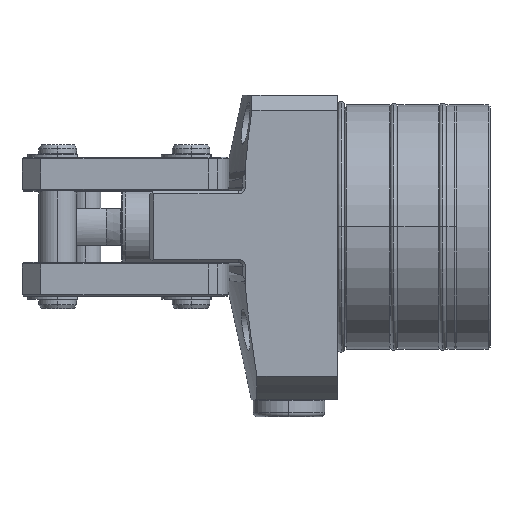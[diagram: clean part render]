
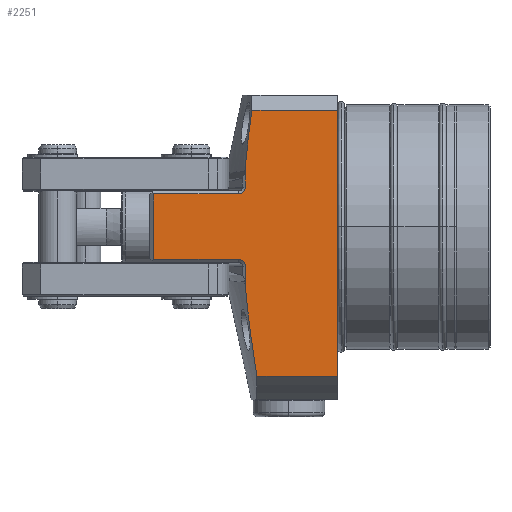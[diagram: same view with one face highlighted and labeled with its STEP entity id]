
A CAD part, top view. The second image highlights one B-rep face of the part: STEP entity #2251.
In plain terms, the highlighted planar face has unit normal (0, 0, 1).
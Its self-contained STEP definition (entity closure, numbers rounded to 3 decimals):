
#1580=B_SPLINE_CURVE_WITH_KNOTS('',3,(#12849,#12850,#12851,#12852),
 .UNSPECIFIED.,.F.,.F.,(4,4),(0.,1.),.UNSPECIFIED.);
#1581=B_SPLINE_CURVE_WITH_KNOTS('',3,(#12857,#12858,#12859,#12860,#12861,
#12862,#12863,#12864,#12865,#12866,#12867,#12868,#12869,#12870,#12871,#12872,
#12873,#12874),.UNSPECIFIED.,.F.,.F.,(4,2,2,2,2,2,2,2,4),(0.,0.125,0.25,
0.375,0.5,0.625,0.75,0.875,1.),.UNSPECIFIED.);
#1582=B_SPLINE_CURVE_WITH_KNOTS('',3,(#12882,#12883,#12884,#12885,#12886,
#12887,#12888,#12889,#12890,#12891,#12892,#12893,#12894,#12895,#12896,#12897,
#12898,#12899),.UNSPECIFIED.,.F.,.F.,(4,2,2,2,2,2,2,2,4),(0.,0.125,0.25,
0.375,0.5,0.625,0.75,0.875,1.),.UNSPECIFIED.);
#1583=B_SPLINE_CURVE_WITH_KNOTS('',3,(#12903,#12904,#12905,#12906),
 .UNSPECIFIED.,.F.,.F.,(4,4),(0.,1.),.UNSPECIFIED.);
#1935=PLANE('',#8745);
#2251=ADVANCED_FACE('',(#2810),#1935,.F.);
#2810=FACE_OUTER_BOUND('',#3223,.T.);
#3223=EDGE_LOOP('',(#5253,#5254,#5255,#5256,#5257,#5258,#5259,#5260,#5261,
#5262,#5263,#5264));
#3677=LINE('',#12855,#4044);
#3678=LINE('',#12876,#4045);
#3679=LINE('',#12878,#4046);
#3680=LINE('',#12880,#4047);
#3681=LINE('',#12901,#4048);
#3682=LINE('',#12908,#4049);
#3683=LINE('',#12910,#4050);
#3684=LINE('',#12912,#4051);
#4044=VECTOR('',#10518,1.);
#4045=VECTOR('',#10519,1.);
#4046=VECTOR('',#10520,1.);
#4047=VECTOR('',#10521,1.);
#4048=VECTOR('',#10522,1.);
#4049=VECTOR('',#10523,1.);
#4050=VECTOR('',#10524,1.);
#4051=VECTOR('',#10525,1.);
#5253=ORIENTED_EDGE('',*,*,#7294,.T.);
#5254=ORIENTED_EDGE('',*,*,#7295,.T.);
#5255=ORIENTED_EDGE('',*,*,#7296,.T.);
#5256=ORIENTED_EDGE('',*,*,#7297,.T.);
#5257=ORIENTED_EDGE('',*,*,#7298,.T.);
#5258=ORIENTED_EDGE('',*,*,#7299,.T.);
#5259=ORIENTED_EDGE('',*,*,#7300,.T.);
#5260=ORIENTED_EDGE('',*,*,#7301,.T.);
#5261=ORIENTED_EDGE('',*,*,#7302,.T.);
#5262=ORIENTED_EDGE('',*,*,#7303,.F.);
#5263=ORIENTED_EDGE('',*,*,#7304,.F.);
#5264=ORIENTED_EDGE('',*,*,#7305,.T.);
#6510=VERTEX_POINT('',#12853);
#6511=VERTEX_POINT('',#12854);
#6512=VERTEX_POINT('',#12856);
#6513=VERTEX_POINT('',#12875);
#6514=VERTEX_POINT('',#12877);
#6515=VERTEX_POINT('',#12879);
#6516=VERTEX_POINT('',#12881);
#6517=VERTEX_POINT('',#12900);
#6518=VERTEX_POINT('',#12902);
#6519=VERTEX_POINT('',#12907);
#6520=VERTEX_POINT('',#12909);
#6521=VERTEX_POINT('',#12911);
#7294=EDGE_CURVE('',#6510,#6511,#1580,.T.);
#7295=EDGE_CURVE('',#6511,#6512,#3677,.T.);
#7296=EDGE_CURVE('',#6512,#6513,#1581,.T.);
#7297=EDGE_CURVE('',#6513,#6514,#3678,.T.);
#7298=EDGE_CURVE('',#6514,#6515,#3679,.T.);
#7299=EDGE_CURVE('',#6515,#6516,#3680,.T.);
#7300=EDGE_CURVE('',#6516,#6517,#1582,.T.);
#7301=EDGE_CURVE('',#6517,#6518,#3681,.T.);
#7302=EDGE_CURVE('',#6518,#6519,#1583,.T.);
#7303=EDGE_CURVE('',#6520,#6519,#3682,.T.);
#7304=EDGE_CURVE('',#6521,#6520,#3683,.T.);
#7305=EDGE_CURVE('',#6521,#6510,#3684,.T.);
#8745=AXIS2_PLACEMENT_3D('',#12913,#10526,#10527);
#10518=DIRECTION('',(0.,-1.,0.));
#10519=DIRECTION('',(-1.,0.,0.));
#10520=DIRECTION('',(0.,-1.,0.));
#10521=DIRECTION('',(1.,0.,0.));
#10522=DIRECTION('',(0.,-1.,0.));
#10523=DIRECTION('',(-1.,0.,0.));
#10524=DIRECTION('',(0.,-1.,0.));
#10525=DIRECTION('',(-1.,0.,0.));
#10526=DIRECTION('',(0.,0.,-1.));
#10527=DIRECTION('',(0.,-1.,0.));
#12849=CARTESIAN_POINT('',(-22.837,31.,35.));
#12850=CARTESIAN_POINT('',(-23.528,26.098,35.));
#12851=CARTESIAN_POINT('',(-24.131,21.186,35.));
#12852=CARTESIAN_POINT('',(-24.573,16.255,35.));
#12853=CARTESIAN_POINT('',(-22.837,31.,35.));
#12854=CARTESIAN_POINT('',(-24.573,16.255,35.));
#12855=CARTESIAN_POINT('',(-24.573,31.,35.));
#12856=CARTESIAN_POINT('',(-24.573,10.5,35.));
#12857=CARTESIAN_POINT('',(-24.573,10.5,35.));
#12858=CARTESIAN_POINT('',(-24.573,10.382,35.));
#12859=CARTESIAN_POINT('',(-24.585,10.264,35.));
#12860=CARTESIAN_POINT('',(-24.632,10.033,35.));
#12861=CARTESIAN_POINT('',(-24.668,9.92,35.));
#12862=CARTESIAN_POINT('',(-24.761,9.702,35.));
#12863=CARTESIAN_POINT('',(-24.819,9.598,35.));
#12864=CARTESIAN_POINT('',(-24.954,9.402,35.));
#12865=CARTESIAN_POINT('',(-25.032,9.311,35.));
#12866=CARTESIAN_POINT('',(-25.205,9.144,35.));
#12867=CARTESIAN_POINT('',(-25.299,9.069,35.));
#12868=CARTESIAN_POINT('',(-25.502,8.938,35.));
#12869=CARTESIAN_POINT('',(-25.61,8.882,35.));
#12870=CARTESIAN_POINT('',(-25.836,8.792,35.));
#12871=CARTESIAN_POINT('',(-25.953,8.758,35.));
#12872=CARTESIAN_POINT('',(-26.192,8.712,35.));
#12873=CARTESIAN_POINT('',(-26.314,8.7,35.));
#12874=CARTESIAN_POINT('',(-26.436,8.7,35.));
#12875=CARTESIAN_POINT('',(-26.436,8.7,35.));
#12876=CARTESIAN_POINT('',(-49.,8.7,35.));
#12877=CARTESIAN_POINT('',(-49.,8.7,35.));
#12878=CARTESIAN_POINT('',(-49.,31.,35.));
#12879=CARTESIAN_POINT('',(-49.,-8.7,35.));
#12880=CARTESIAN_POINT('',(-26.222,-8.7,35.));
#12881=CARTESIAN_POINT('',(-26.436,-8.7,35.));
#12882=CARTESIAN_POINT('',(-26.436,-8.7,35.));
#12883=CARTESIAN_POINT('',(-26.314,-8.7,35.));
#12884=CARTESIAN_POINT('',(-26.192,-8.712,35.));
#12885=CARTESIAN_POINT('',(-25.953,-8.758,35.));
#12886=CARTESIAN_POINT('',(-25.836,-8.792,35.));
#12887=CARTESIAN_POINT('',(-25.61,-8.882,35.));
#12888=CARTESIAN_POINT('',(-25.502,-8.938,35.));
#12889=CARTESIAN_POINT('',(-25.299,-9.069,35.));
#12890=CARTESIAN_POINT('',(-25.205,-9.144,35.));
#12891=CARTESIAN_POINT('',(-25.032,-9.311,35.));
#12892=CARTESIAN_POINT('',(-24.954,-9.402,35.));
#12893=CARTESIAN_POINT('',(-24.819,-9.598,35.));
#12894=CARTESIAN_POINT('',(-24.761,-9.702,35.));
#12895=CARTESIAN_POINT('',(-24.668,-9.92,35.));
#12896=CARTESIAN_POINT('',(-24.632,-10.033,35.));
#12897=CARTESIAN_POINT('',(-24.585,-10.264,35.));
#12898=CARTESIAN_POINT('',(-24.573,-10.382,35.));
#12899=CARTESIAN_POINT('',(-24.573,-10.5,35.));
#12900=CARTESIAN_POINT('',(-24.573,-10.5,35.));
#12901=CARTESIAN_POINT('',(-24.573,-13.096,35.));
#12902=CARTESIAN_POINT('',(-24.573,-16.255,35.));
#12903=CARTESIAN_POINT('',(-24.573,-16.255,35.));
#12904=CARTESIAN_POINT('',(-23.866,-24.144,35.));
#12905=CARTESIAN_POINT('',(-22.758,-31.981,35.));
#12906=CARTESIAN_POINT('',(-21.51,-39.799,35.));
#12907=CARTESIAN_POINT('',(-21.51,-39.799,35.));
#12908=CARTESIAN_POINT('',(31.5,-39.799,35.));
#12909=CARTESIAN_POINT('',(0.,-39.799,35.));
#12910=CARTESIAN_POINT('',(0.,31.,35.));
#12911=CARTESIAN_POINT('',(0.,31.,35.));
#12912=CARTESIAN_POINT('',(31.501,31.,35.));
#12913=CARTESIAN_POINT('',(31.501,31.,35.));
